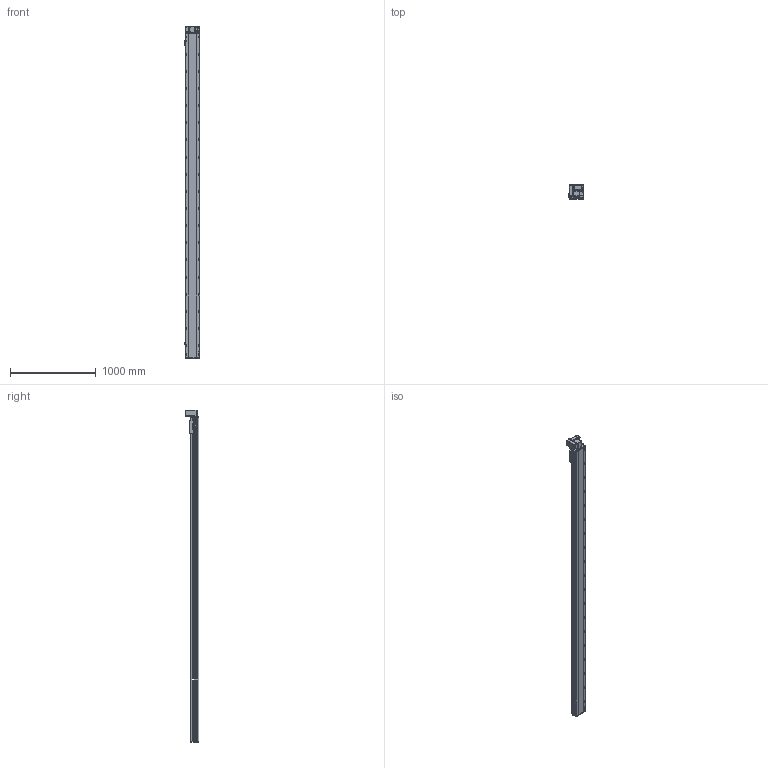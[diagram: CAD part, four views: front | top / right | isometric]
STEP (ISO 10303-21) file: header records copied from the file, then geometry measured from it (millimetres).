
FILE_DESCRIPTION (( 'STEP AP214' ), '1' );
FILE_NAME ('RTB17S-XX-3500-LW-M40-C4.STEP', '2025-12-11T07:24:23', ( '' ), ( '' ), 'SwSTEP 2.0', 'SolidWorks 2018', '' );
FILE_SCHEMA (( 'AUTOMOTIVE_DESIGN' ));
Length unit declared in the file: millimetre
Products named in the file (14): RTB17-R-011菁釱^RTB17S-XX-XX-LW-M40-C4; RTB14-L-017P^RTB17S-LW-々湍釱蚾饜-400W_RTB17S-XX-XX-LW-M40-C4; RTB14-L-005P--轴承塑胶压盖^RTB17S-LW-皮带座装配-400W_RTB17S-XX-XX-LW-M40-C4; RTB17S-XX-3500-LW-M40-C4; RTB17S-L-007奻裔^RTB17S-XX-XX-LW-M40-C4; RTB17S-L-001耜醱啣^RTB17S-XX-XX-LW-M40-C4; RTB17S-L-004佪裝蹟譫蟀諉釱^RTB17S-XX-XX-LW-M40-C4; OMRON EE-SX672 传感器^RTB17S-XX-XX-LW-M40-C4; 400W侜督萇儂^RTB17S-XX-XX-LW-M40-C4; RTB14-L-008-M20--萇儂啣^RTB17S-LW-々湍釱蚾饜-400W_RTB17S-XX-XX-LW-M40-C4; RTB17S-L-014-T20--々湍釱^RTB17S-LW-々湍釱蚾饜-400W_RTB17S-XX-XX-LW-M40-C4; RTH13-BL-012覜茼え俋离^RTB17S-XX-XX-LW-M40-C4; RTB17S-LW-々湍釱蚾饜-400W^RTB17S-XX-XX-LW-M40-C4; RTB14-L-018P^RTB17S-LW-々湍釱蚾饜-400W_RTB17S-XX-XX-LW-M40-C4
Assembly tree (16 placements, depth 3):
  RTB17S-XX-3500-LW-M40-C4
    RTB17-R-011菁釱^RTB17S-XX-XX-LW-M40-C4
    RTB17S-L-007奻裔^RTB17S-XX-XX-LW-M40-C4
    OMRON EE-SX672 传感器^RTB17S-XX-XX-LW-M40-C4  x3
    RTB17S-L-001耜醱啣^RTB17S-XX-XX-LW-M40-C4
    400W侜督萇儂^RTB17S-XX-XX-LW-M40-C4
    RTB17S-L-004佪裝蹟譫蟀諉釱^RTB17S-XX-XX-LW-M40-C4
    RTH13-BL-012覜茼え俋离^RTB17S-XX-XX-LW-M40-C4
    RTB17S-LW-々湍釱蚾饜-400W^RTB17S-XX-XX-LW-M40-C4
      RTB17S-L-014-T20--々湍釱^RTB17S-LW-々湍釱蚾饜-400W_RTB17S-XX-XX-LW-M40-C4
      RTB14-L-005P--轴承塑胶压盖^RTB17S-LW-皮带座装配-400W_RTB17S-XX-XX-LW-M40-C4
      RTB14-L-008-M20--萇儂啣^RTB17S-LW-々湍釱蚾饜-400W_RTB17S-XX-XX-LW-M40-C4
      RTB14-L-017P^RTB17S-LW-々湍釱蚾饜-400W_RTB17S-XX-XX-LW-M40-C4  x2
      RTB14-L-018P^RTB17S-LW-々湍釱蚾饜-400W_RTB17S-XX-XX-LW-M40-C4
Bounding box: 186 x 160.5 x 3872.5 mm (x, y, z)
Volume: 32759005.9 mm3; surface area: 3722192.6 mm2
Topology: 15 solids, 15 shells, 2413 faces, 6789 edges, 4437 vertices
Faces by surface type: plane 1094, cylinder 871, bspline 301, cone 139, torus 8
Entity records: 72617 total; most frequent: CARTESIAN_POINT 20794, ORIENTED_EDGE 10422, DIRECTION 9566, EDGE_CURVE 5211, VERTEX_POINT 3425, AXIS2_PLACEMENT_3D 3355, LINE 2856, VECTOR 2856
